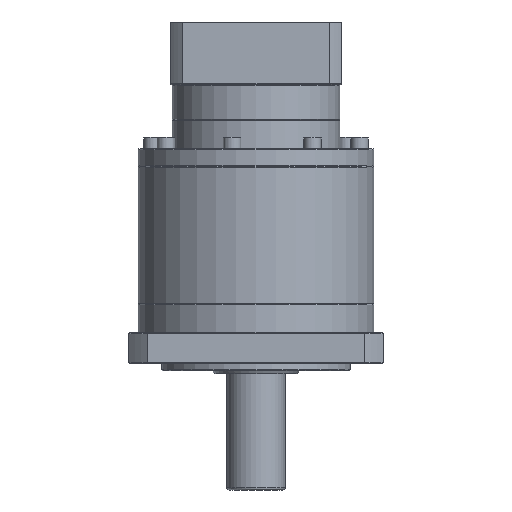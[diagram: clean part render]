
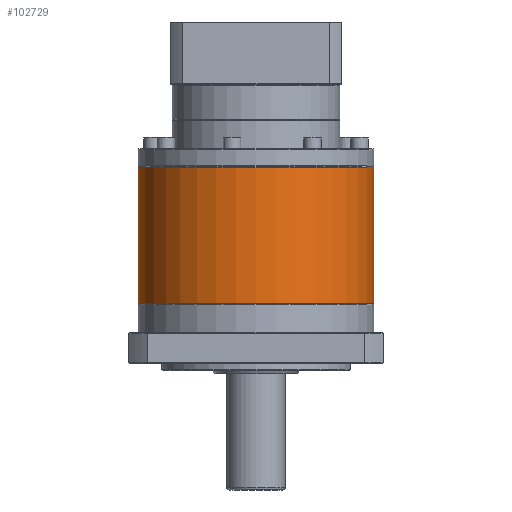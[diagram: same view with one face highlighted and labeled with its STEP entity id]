
A CAD part, front view. The second image highlights one B-rep face of the part: STEP entity #102729.
In plain terms, the highlighted cylindrical face has radius 81 mm (diameter 162 mm), a partial arc.
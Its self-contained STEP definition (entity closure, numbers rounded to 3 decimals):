
#5337 = EDGE_CURVE ( 'NONE', #20523, #69847, #59765, .T. ) ;
#6126 = EDGE_CURVE ( 'NONE', #69847, #15201, #23091, .T. ) ;
#7194 = DIRECTION ( 'NONE',  ( -1., 0., 0. ) ) ;
#7592 = VECTOR ( 'NONE', #54375, 1000. ) ;
#9741 = VERTEX_POINT ( 'NONE', #23961 ) ;
#13182 = CARTESIAN_POINT ( 'NONE',  ( -189.726, 59.557, -76.589 ) ) ;
#13342 = ORIENTED_EDGE ( 'NONE', *, *, #63222, .F. ) ;
#14006 = AXIS2_PLACEMENT_3D ( 'NONE', #82185, #90619, #32829 ) ;
#15201 = VERTEX_POINT ( 'NONE', #21311 ) ;
#17970 = AXIS2_PLACEMENT_3D ( 'NONE', #43053, #75380, #51760 ) ;
#20523 = VERTEX_POINT ( 'NONE', #52172 ) ;
#21311 = CARTESIAN_POINT ( 'NONE',  ( -27.726, 59.557, -170.589 ) ) ;
#21564 = DIRECTION ( 'NONE',  ( 0., 0., -1. ) ) ;
#23091 = CIRCLE ( 'NONE', #85157, 81. ) ;
#23929 = EDGE_LOOP ( 'NONE', ( #13342, #33723, #33292, #65454 ) ) ;
#23961 = CARTESIAN_POINT ( 'NONE',  ( -27.726, 59.557, -77.089 ) ) ;
#27145 = LINE ( 'NONE', #79804, #7592 ) ;
#30232 = FACE_OUTER_BOUND ( 'NONE', #23929, .T. ) ;
#32829 = DIRECTION ( 'NONE',  ( -1., 0., 0. ) ) ;
#33292 = ORIENTED_EDGE ( 'NONE', *, *, #5337, .T. ) ;
#33723 = ORIENTED_EDGE ( 'NONE', *, *, #50893, .T. ) ;
#38821 = DIRECTION ( 'NONE',  ( 0., 0., 1. ) ) ;
#43053 = CARTESIAN_POINT ( 'NONE',  ( -108.726, 59.557, -77.089 ) ) ;
#50893 = EDGE_CURVE ( 'NONE', #9741, #20523, #52669, .T. ) ;
#51760 = DIRECTION ( 'NONE',  ( -1., 0., 0. ) ) ;
#52172 = CARTESIAN_POINT ( 'NONE',  ( -189.726, 59.557, -77.089 ) ) ;
#52669 = CIRCLE ( 'NONE', #17970, 81. ) ;
#54375 = DIRECTION ( 'NONE',  ( 0., 0., -1. ) ) ;
#58517 = CARTESIAN_POINT ( 'NONE',  ( -189.726, 59.557, -170.589 ) ) ;
#59765 = LINE ( 'NONE', #13182, #101416 ) ;
#63222 = EDGE_CURVE ( 'NONE', #9741, #15201, #27145, .T. ) ;
#65311 = CARTESIAN_POINT ( 'NONE',  ( -108.726, 59.557, -170.589 ) ) ;
#65454 = ORIENTED_EDGE ( 'NONE', *, *, #6126, .T. ) ;
#67850 = CYLINDRICAL_SURFACE ( 'NONE', #14006, 81. ) ;
#69847 = VERTEX_POINT ( 'NONE', #58517 ) ;
#75380 = DIRECTION ( 'NONE',  ( 0., 0., -1. ) ) ;
#79804 = CARTESIAN_POINT ( 'NONE',  ( -27.726, 59.557, -76.589 ) ) ;
#82185 = CARTESIAN_POINT ( 'NONE',  ( -108.726, 59.557, -76.589 ) ) ;
#85157 = AXIS2_PLACEMENT_3D ( 'NONE', #65311, #38821, #7194 ) ;
#90619 = DIRECTION ( 'NONE',  ( 0., 0., -1. ) ) ;
#101416 = VECTOR ( 'NONE', #21564, 1000. ) ;
#102729 = ADVANCED_FACE ( 'NONE', ( #30232 ), #67850, .T. ) ;
